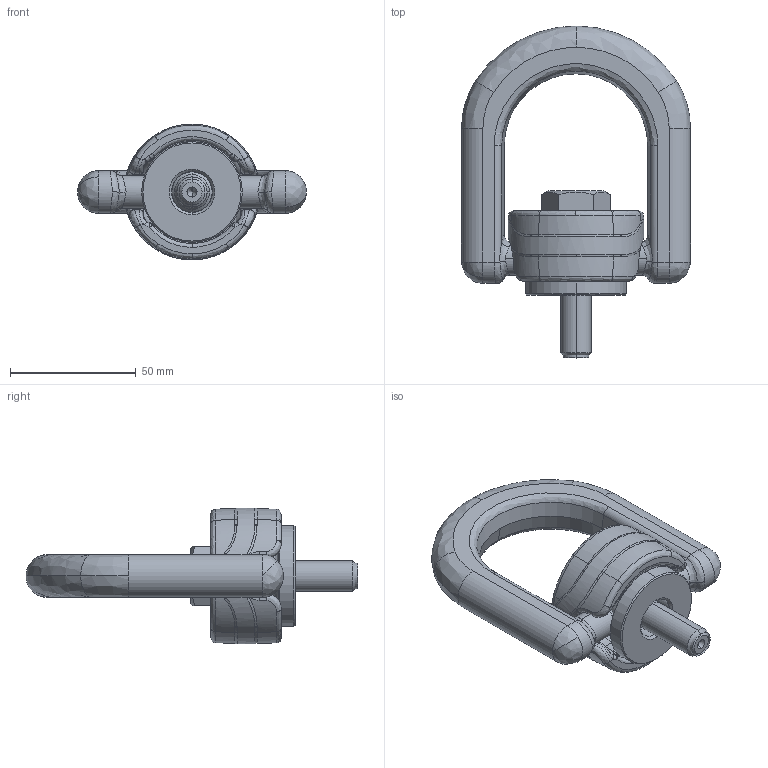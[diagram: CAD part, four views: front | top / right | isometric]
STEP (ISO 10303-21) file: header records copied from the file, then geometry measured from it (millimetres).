
FILE_DESCRIPTION (( 'STEP AP203' ), '1' );
FILE_NAME ('Z101712.step', '2016-04-04T11:07:33', ( '' ), ( '' ), 'SwSTEP 2.0', 'SolidWorks 2008', '' );
FILE_SCHEMA (( 'CONFIG_CONTROL_DESIGN' ));
Length unit declared in the file: millimetre
Products named in the file (6): Z7681216_; Z101712; Z768072; Z768658; Z768027_SMITT; Z776042
Assembly tree (5 placements, depth 2):
  Z101712
    Z776042
    Z7681216_
    Z768027_SMITT
    Z768658
    Z768072
Bounding box: 91 x 131.9 x 54 mm (x, y, z)
Volume: 109399.7 mm3; surface area: 36603.5 mm2
Topology: 4 solids, 6 shells, 414 faces, 1009 edges, 604 vertices
Faces by surface type: bspline 265, cylinder 65, plane 56, cone 27, torus 1
Entity records: 30415 total; most frequent: CARTESIAN_POINT 22479, ORIENTED_EDGE 1994, EDGE_CURVE 999, DIRECTION 912, VERTEX_POINT 604, B_SPLINE_CURVE_WITH_KNOTS 453, EDGE_LOOP 427, FACE_OUTER_BOUND 414
